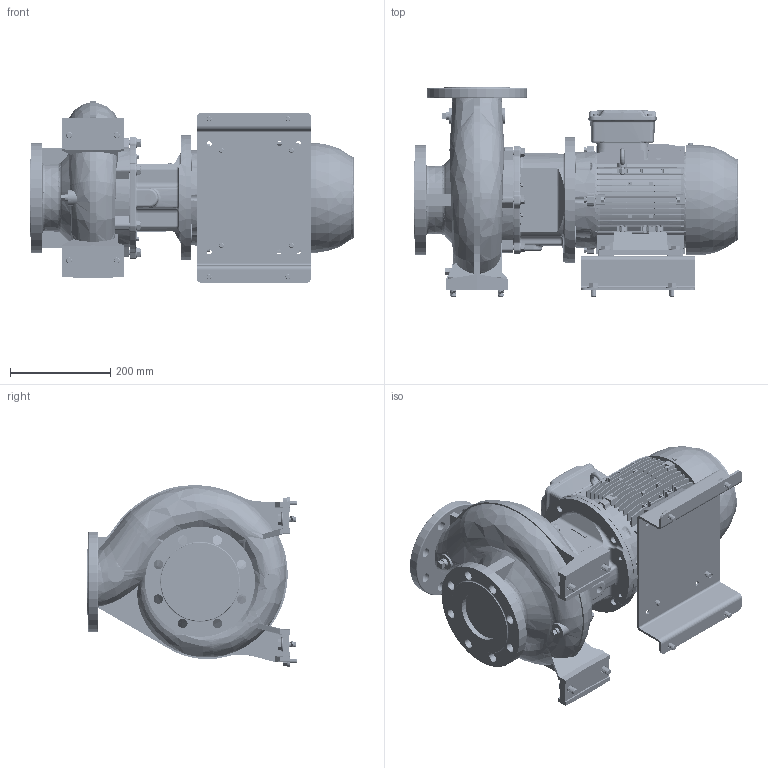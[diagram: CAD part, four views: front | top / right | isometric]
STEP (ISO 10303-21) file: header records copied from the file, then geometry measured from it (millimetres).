
FILE_DESCRIPTION (( 'STEP AP214' ), '1' );
FILE_NAME ('GSD4 80-160_4.0_(112M)_W21.STEP', '2026-07-01T02:12:15', ( '' ), ( '' ), 'SwSTEP 2.0', 'SolidWorks 2024', '' );
FILE_SCHEMA (( 'AUTOMOTIVE_DESIGN' ));
Length unit declared in the file: millimetre
Products named in the file (12): Parametric bolt and washer_SFT-A249B; Parametric bolt and washer_SFT-A253B; Parametric bolt and washer_SFT-A299B; 112M ALIE3_W21T_B35; Parametric bolt_SFT-A249B; 80-160-112M_ﾃﾞﾌｫﾙﾄ; Parametric bolt_SFT-A299B; GSD4 80-160_4.0_(112M)_W21; Parametric Flat Washer_M10; 140_178 x 68 BP - 271472191; Parametric bolt_SFT-A253B; Parametric Flat Washer_M12
Assembly tree (21 placements, depth 3):
  GSD4 80-160_4.0_(112M)_W21
    80-160-112M_ﾃﾞﾌｫﾙﾄ
    112M ALIE3_W21T_B35
    140_178 x 68 BP - 271472191
    Parametric bolt and washer_SFT-A249B  x4
      Parametric bolt_SFT-A249B
      Parametric Flat Washer_M10
    Parametric bolt and washer_SFT-A253B  x4
      Parametric bolt_SFT-A253B
      Parametric Flat Washer_M10
    Parametric bolt and washer_SFT-A299B  x4
      Parametric bolt_SFT-A299B
      Parametric Flat Washer_M12
Bounding box: 645.1 x 418 x 363.31 mm (x, y, z)
Volume: 24615994.3 mm3; surface area: 1804710.5 mm2
Topology: 37 solids, 39 shells, 5165 faces, 13770 edges, 8952 vertices
Faces by surface type: plane 2655, cylinder 1255, bspline 508, torus 375, cone 361, sphere 11
Entity records: 210179 total; most frequent: CARTESIAN_POINT 99231, ORIENTED_EDGE 24928, DIRECTION 20111, EDGE_CURVE 12464, VERTEX_POINT 8112, LINE 6993, VECTOR 6993, AXIS2_PLACEMENT_3D 6559
